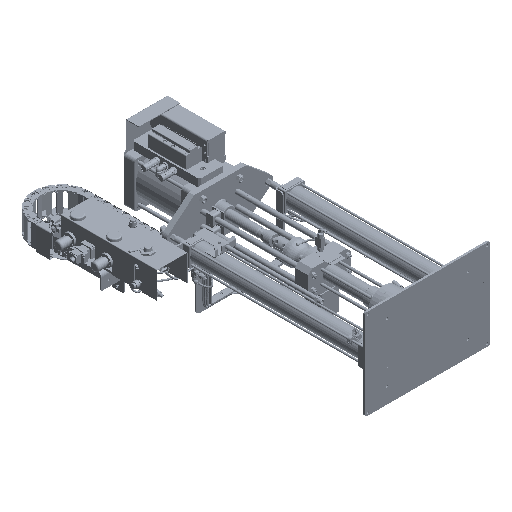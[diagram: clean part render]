
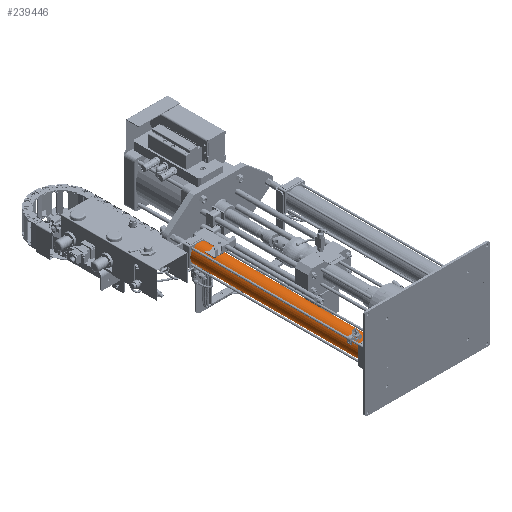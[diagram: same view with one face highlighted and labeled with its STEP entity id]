
A CAD part, isometric view. The second image highlights one B-rep face of the part: STEP entity #239446.
In plain terms, the highlighted cylindrical face has radius 43.175 mm (diameter 86.35 mm), a full revolution.
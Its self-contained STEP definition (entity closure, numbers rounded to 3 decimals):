
#10341 = CIRCLE ( 'NONE', #219167, 43.175 ) ;
#10771 = ORIENTED_EDGE ( 'NONE', *, *, #146203, .T. ) ;
#11121 = DIRECTION ( 'NONE',  ( 0., 1., 0. ) ) ;
#11750 = VERTEX_POINT ( 'NONE', #290175 ) ;
#14819 = CARTESIAN_POINT ( 'NONE',  ( -79.202, 367.022, 915.99 ) ) ;
#16047 = CYLINDRICAL_SURFACE ( 'NONE', #64406, 43.175 ) ;
#41685 = VERTEX_POINT ( 'NONE', #211732 ) ;
#64406 = AXIS2_PLACEMENT_3D ( 'NONE', #240318, #245793, #182408 ) ;
#93979 = EDGE_CURVE ( 'NONE', #11750, #11750, #10341, .T. ) ;
#96844 = DIRECTION ( 'NONE',  ( 0., 0., 1. ) ) ;
#98893 = DIRECTION ( 'NONE',  ( 0., 0., 1. ) ) ;
#124854 = DIRECTION ( 'NONE',  ( 0., 1., 0. ) ) ;
#146203 = EDGE_CURVE ( 'NONE', #41685, #41685, #248183, .T. ) ;
#174009 = EDGE_LOOP ( 'NONE', ( #10771 ) ) ;
#182408 = DIRECTION ( 'NONE',  ( 0., 0., -1. ) ) ;
#211732 = CARTESIAN_POINT ( 'NONE',  ( -79.202, 367.022, 959.165 ) ) ;
#215957 = FACE_OUTER_BOUND ( 'NONE', #174009, .T. ) ;
#219167 = AXIS2_PLACEMENT_3D ( 'NONE', #294862, #124854, #96844 ) ;
#239446 = ADVANCED_FACE ( 'NONE', ( #326198, #215957 ), #16047, .T. ) ;
#240318 = CARTESIAN_POINT ( 'NONE',  ( -79.202, 1172.022, 915.99 ) ) ;
#245793 = DIRECTION ( 'NONE',  ( 0., -1., 0. ) ) ;
#248183 = CIRCLE ( 'NONE', #325761, 43.175 ) ;
#252460 = EDGE_LOOP ( 'NONE', ( #320553 ) ) ;
#290175 = CARTESIAN_POINT ( 'NONE',  ( -79.202, 1172.022, 959.165 ) ) ;
#294862 = CARTESIAN_POINT ( 'NONE',  ( -79.202, 1172.022, 915.99 ) ) ;
#320553 = ORIENTED_EDGE ( 'NONE', *, *, #93979, .F. ) ;
#325761 = AXIS2_PLACEMENT_3D ( 'NONE', #14819, #11121, #98893 ) ;
#326198 = FACE_OUTER_BOUND ( 'NONE', #252460, .T. ) ;
